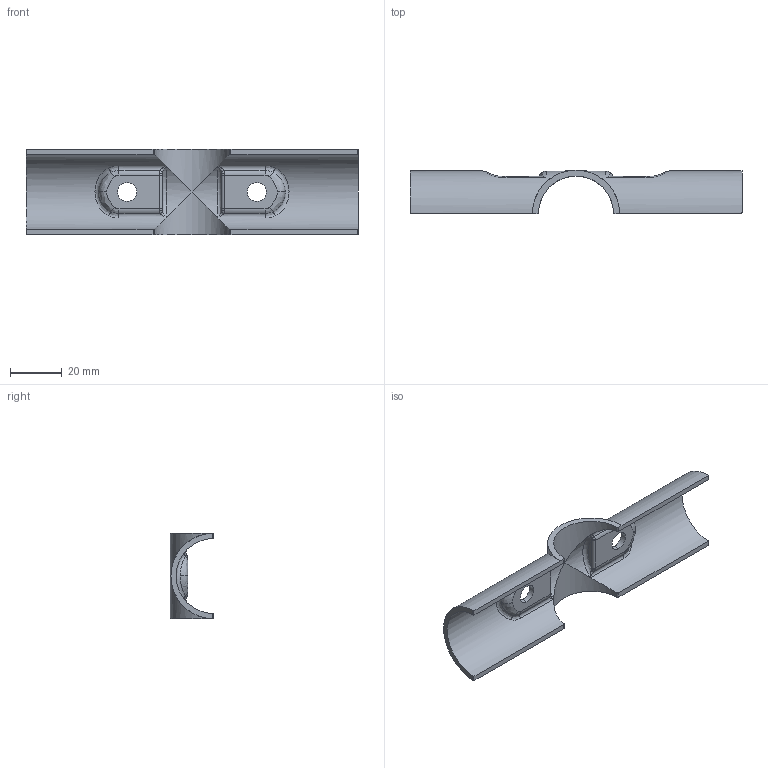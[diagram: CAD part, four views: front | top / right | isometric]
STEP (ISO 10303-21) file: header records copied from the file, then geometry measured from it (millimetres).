
FILE_DESCRIPTION (( 'STEP AP203' ), '1' );
FILE_NAME ('015.100.004.STEP', '2016-10-24T07:27:06', ( '' ), ( '' ), 'SwSTEP 2.0', 'SolidWorks 2016', '' );
FILE_SCHEMA (( 'CONFIG_CONTROL_DESIGN' ));
Length unit declared in the file: millimetre
Products named in the file (1): 015.100.004
Bounding box: 128 x 16.8 x 33 mm (x, y, z)
Volume: 13015.1 mm3; surface area: 12747.7 mm2
Topology: 1 solids, 1 shells, 101 faces, 254 edges, 157 vertices
Faces by surface type: cylinder 43, bspline 32, plane 16, torus 10
Entity records: 5371 total; most frequent: CARTESIAN_POINT 3145, ORIENTED_EDGE 508, DIRECTION 376, EDGE_CURVE 254, VERTEX_POINT 157, AXIS2_PLACEMENT_3D 156, EDGE_LOOP 107, FACE_OUTER_BOUND 101
